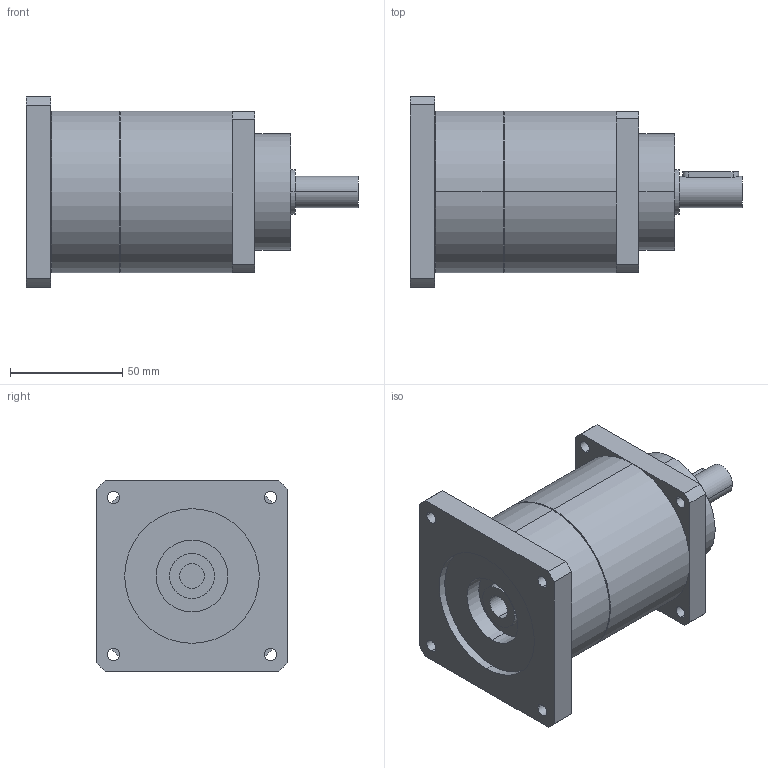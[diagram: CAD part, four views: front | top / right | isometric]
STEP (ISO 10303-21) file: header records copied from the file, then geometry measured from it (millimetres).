
FILE_DESCRIPTION(('CoCreate Modeling STEP Export'),'2;1');
FILE_NAME('GPT75_ig-9-12-16-20-25-28-35-40-50-70-100_14_B5T_11_P33.stp','2014-08-27T13:34:52',(''),(''),'CoCreate Modeling STEP processor for AP214 (Solid Model)','CoCreate Modeling 16.00C 25-Feb-2009 (C) Parametric Technology GmbH','');
FILE_SCHEMA(('AUTOMOTIVE_DESIGN { 1 0 10303 214 1 1 1 1 }'));
Length unit declared in the file: millimetre
Products named in the file (2): GPT75_ig-9-12-16-20-25-28-35-40-50-70-100_14_B5T_11_P33
Assembly tree (1 placements, depth 2):
  GPT75_ig-9-12-16-20-25-28-35-40-50-70-100_14_B5T_11_P33
    GPT75_ig-9-12-16-20-25-28-35-40-50-70-100_14_B5T_11_P33
Bounding box: 148 x 85 x 85 mm (x, y, z)
Volume: 479584.9 mm3; surface area: 49752.5 mm2
Topology: 1 solids, 1 shells, 77 faces, 194 edges, 129 vertices
Faces by surface type: cylinder 46, plane 27, cone 4
Entity records: 2484 total; most frequent: CARTESIAN_POINT 719, ORIENTED_EDGE 388, DIRECTION 320, EDGE_CURVE 194, VERTEX_POINT 129, AXIS2_PLACEMENT_3D 118, EDGE_LOOP 103, VECTOR 84
